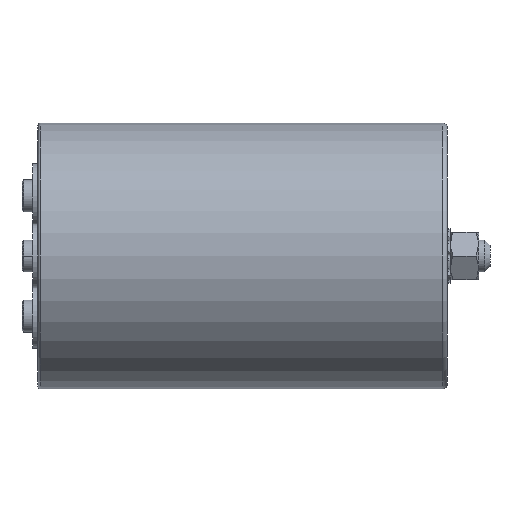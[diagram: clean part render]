
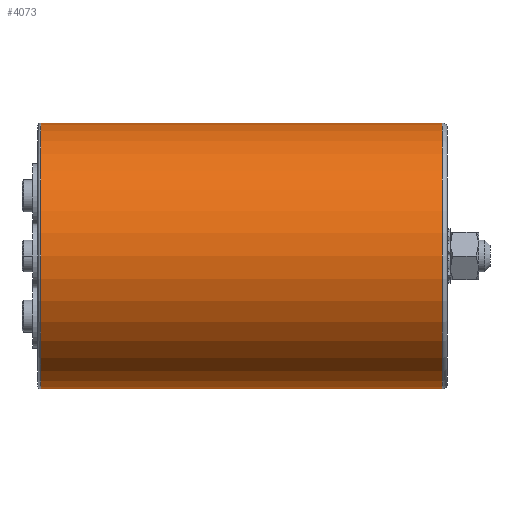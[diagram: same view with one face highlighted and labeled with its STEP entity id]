
A CAD part, left-side view. The second image highlights one B-rep face of the part: STEP entity #4073.
In plain terms, the highlighted cylindrical face has radius 50 mm (diameter 100 mm), a partial arc.
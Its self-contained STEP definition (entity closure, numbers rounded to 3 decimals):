
#125 = EDGE_LOOP ( 'NONE', ( #3944, #893, #1280, #1216 ) ) ;
#246 = CARTESIAN_POINT ( 'NONE',  ( 0., 2., 0. ) ) ;
#329 = DIRECTION ( 'NONE',  ( 0., -1., 0. ) ) ;
#893 = ORIENTED_EDGE ( 'NONE', *, *, #3498, .T. ) ;
#1072 = CARTESIAN_POINT ( 'NONE',  ( 0., 0., -50. ) ) ;
#1136 = LINE ( 'NONE', #4428, #1907 ) ;
#1146 = CIRCLE ( 'NONE', #3445, 50. ) ;
#1216 = ORIENTED_EDGE ( 'NONE', *, *, #2627, .T. ) ;
#1280 = ORIENTED_EDGE ( 'NONE', *, *, #3097, .T. ) ;
#1294 = DIRECTION ( 'NONE',  ( 0., 0., -1. ) ) ;
#1425 = DIRECTION ( 'NONE',  ( 0., -1., 0. ) ) ;
#1455 = LINE ( 'NONE', #1072, #3818 ) ;
#1494 = DIRECTION ( 'NONE',  ( 0., 0., -1. ) ) ;
#1541 = CYLINDRICAL_SURFACE ( 'NONE', #4393, 50. ) ;
#1565 = FACE_OUTER_BOUND ( 'NONE', #125, .T. ) ;
#1813 = VERTEX_POINT ( 'NONE', #4336 ) ;
#1841 = VERTEX_POINT ( 'NONE', #3629 ) ;
#1907 = VECTOR ( 'NONE', #3617, 1000. ) ;
#2297 = DIRECTION ( 'NONE',  ( 0., -1., 0. ) ) ;
#2465 = CARTESIAN_POINT ( 'NONE',  ( 0., 2., 50. ) ) ;
#2627 = EDGE_CURVE ( 'NONE', #1813, #4694, #1146, .T. ) ;
#3097 = EDGE_CURVE ( 'NONE', #1841, #1813, #1455, .T. ) ;
#3135 = EDGE_CURVE ( 'NONE', #3602, #4694, #1136, .T. ) ;
#3301 = DIRECTION ( 'NONE',  ( 0., 0., 1. ) ) ;
#3445 = AXIS2_PLACEMENT_3D ( 'NONE', #246, #4638, #1294 ) ;
#3498 = EDGE_CURVE ( 'NONE', #3602, #1841, #3514, .T. ) ;
#3514 = CIRCLE ( 'NONE', #3751, 50. ) ;
#3602 = VERTEX_POINT ( 'NONE', #3991 ) ;
#3617 = DIRECTION ( 'NONE',  ( 0., -1., 0. ) ) ;
#3629 = CARTESIAN_POINT ( 'NONE',  ( 0., 153., -50. ) ) ;
#3751 = AXIS2_PLACEMENT_3D ( 'NONE', #4381, #1425, #3301 ) ;
#3818 = VECTOR ( 'NONE', #329, 1000. ) ;
#3944 = ORIENTED_EDGE ( 'NONE', *, *, #3135, .F. ) ;
#3991 = CARTESIAN_POINT ( 'NONE',  ( 0., 153., 50. ) ) ;
#4073 = ADVANCED_FACE ( 'NONE', ( #1565 ), #1541, .T. ) ;
#4336 = CARTESIAN_POINT ( 'NONE',  ( 0., 2., -50. ) ) ;
#4381 = CARTESIAN_POINT ( 'NONE',  ( 0., 153., 0. ) ) ;
#4393 = AXIS2_PLACEMENT_3D ( 'NONE', #4418, #2297, #1494 ) ;
#4418 = CARTESIAN_POINT ( 'NONE',  ( 0., 0., 0. ) ) ;
#4428 = CARTESIAN_POINT ( 'NONE',  ( 0., 0., 50. ) ) ;
#4638 = DIRECTION ( 'NONE',  ( 0., 1., 0. ) ) ;
#4694 = VERTEX_POINT ( 'NONE', #2465 ) ;
